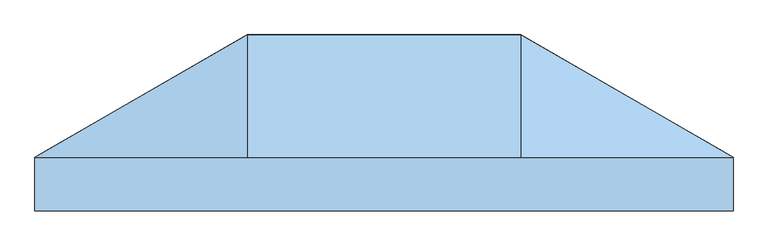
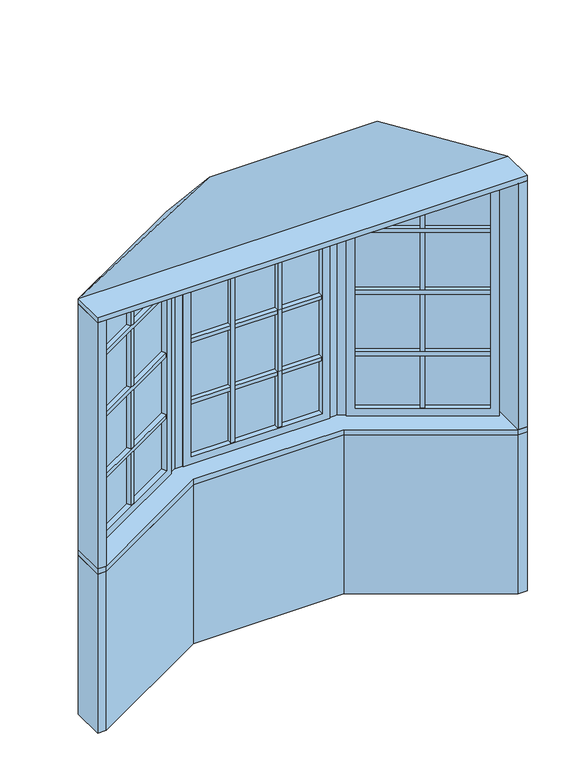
"""IFC4 building model written with IfcOpenShell, lengths in millimetres: window geometry, Pollard_Windows_Tudor Casement Bows and Bays : AML-BAY 30 AFR0512-10-600_GC."""

from ifc_helpers import new_model, si_unit, frame, origin, origin_with_axes, place, context, project, spatial, polyline, outline, extrude, faceted_brep, source, transform, mapped, element, save


def window_44f29f49(model_context):
    return source(origin(), model_context, "Body", "SolidModel", [
        extrude(outline(polyline([(460.381999, 376.6297343), (926.6135794, 107.4508058), (915.6135794, 88.3982469), (449.381999, 357.5771754), (460.381999, 376.6297343)])), frame((0.0, 0.0, 1390.998), z_axis=(0.0, 0.0, 1.0), x_axis=(1.0, 0.0, 0.0)), (0.0, 0.0, 1.0), 18.0),
        extrude(outline(polyline([(446.841999, 353.1777664), (913.0735794, 83.9988379), (902.0735794, 64.946279), (435.841999, 334.1252075), (446.841999, 353.1777664)])), frame((0.0, 0.0, 1390.998), z_axis=(0.0, 0.0, 1.0), x_axis=(1.0, 0.0, 0.0)), (0.0, 0.0, 1.0), 18.0),
        extrude(outline(polyline([(460.381999, 376.6297343), (926.6135794, 107.4508058), (915.6135794, 88.3982469), (449.381999, 357.5771754), (460.381999, 376.6297343)])), frame((0.0, 0.0, 1090.998), z_axis=(0.0, 0.0, 1.0), x_axis=(1.0, 0.0, 0.0)), (0.0, 0.0, 1.0), 18.0),
        extrude(outline(polyline([(446.841999, 353.1777664), (913.0735794, 83.9988379), (902.0735794, 64.946279), (435.841999, 334.1252075), (446.841999, 353.1777664)])), frame((0.0, 0.0, 1090.998), z_axis=(0.0, 0.0, 1.0), x_axis=(1.0, 0.0, 0.0)), (0.0, 0.0, 1.0), 18.0),
        extrude(outline(polyline([(460.381999, 376.6297343), (926.6135794, 107.4508058), (915.6135794, 88.3982469), (449.381999, 357.5771754), (460.381999, 376.6297343)])), frame((0.0, 0.0, 1390.998), z_axis=(0.0, 0.0, 1.0), x_axis=(1.0, 0.0, 0.0)), (0.0, 0.0, 1.0), 18.0),
        extrude(outline(polyline([(446.841999, 353.1777664), (913.0735794, 83.9988379), (902.0735794, 64.946279), (435.841999, 334.1252075), (446.841999, 353.1777664)])), frame((0.0, 0.0, 1390.998), z_axis=(0.0, 0.0, 1.0), x_axis=(1.0, 0.0, 0.0)), (0.0, 0.0, 1.0), 18.0),
        extrude(outline(polyline([(460.381999, 376.6297343), (926.6135794, 107.4508058), (915.6135794, 88.3982469), (449.381999, 357.5771754), (460.381999, 376.6297343)])), frame((0.0, 0.0, 1390.998), z_axis=(0.0, 0.0, 1.0), x_axis=(1.0, 0.0, 0.0)), (0.0, 0.0, 1.0), 18.0),
        extrude(outline(polyline([(446.841999, 353.1777664), (913.0735794, 83.9988379), (902.0735794, 64.946279), (435.841999, 334.1252075), (446.841999, 353.1777664)])), frame((0.0, 0.0, 1390.998), z_axis=(0.0, 0.0, 1.0), x_axis=(1.0, 0.0, 0.0)), (0.0, 0.0, 1.0), 18.0),
        extrude(outline(polyline([(460.381999, 376.6297343), (926.6135794, 107.4508058), (915.6135794, 88.3982469), (449.381999, 357.5771754), (460.381999, 376.6297343)])), frame((0.0, 0.0, 1690.998), z_axis=(0.0, 0.0, 1.0), x_axis=(1.0, 0.0, 0.0)), (0.0, 0.0, 1.0), 18.0),
        extrude(outline(polyline([(446.841999, 353.1777664), (913.0735794, 83.9988379), (902.0735794, 64.946279), (435.841999, 334.1252075), (446.841999, 353.1777664)])), frame((0.0, 0.0, 1690.998), z_axis=(0.0, 0.0, 1.0), x_axis=(1.0, 0.0, 0.0)), (0.0, 0.0, 1.0), 18.0),
        extrude(outline(polyline([(690.2920178, 218.4877112), (674.7035606, 227.4877112), (685.7035606, 246.5402701), (701.2920178, 237.5402701), (690.2920178, 218.4877112)])), frame((0.0, 0.0, 835.8628), z_axis=(0.0, 0.0, 1.0), x_axis=(1.0, 0.0, 0.0)), (0.0, 0.0, 1.0), 1128.2704),
        extrude(outline(polyline([(687.7520178, 214.0883021), (676.7520178, 195.0357432), (661.1635606, 204.0357432), (672.1635606, 223.0883021), (687.7520178, 214.0883021)])), frame((0.0, 0.0, 835.8628), z_axis=(0.0, 0.0, 1.0), x_axis=(1.0, 0.0, 0.0)), (0.0, 0.0, 1.0), 1128.2704),
        extrude(outline(polyline([(926.612102, 82.0482469), (924.072102, 77.6488379), (435.8434764, 359.5277664), (438.3834764, 363.9271754), (926.612102, 82.0482469)])), frame((0.0, 0.0, 823.1628), z_axis=(0.0, 0.0, 1.0), x_axis=(1.0, 0.0, 0.0)), (0.0, 0.0, 1.0), 1153.6704),
        faceted_brep([(915.6135794, 88.3982469, 835.8628), (915.6135794, 88.3982469, 1964.1332), (928.3135794, 110.3952922, 1964.1332), (928.3135794, 110.3952922, 835.8628), (924.072102, 77.6488379, 823.1628), (924.072102, 77.6488379, 1976.8332), (926.612102, 82.0482469, 1976.8332), (926.612102, 82.0482469, 823.1628), (900.3735794, 62.0017926, 835.8628), (900.3735794, 62.0017926, 1964.1332), (913.0735794, 83.9988379, 1964.1332), (913.0735794, 83.9988379, 835.8628), (959.3734073, 92.4628922, 799.998), (959.3734073, 92.4628922, 1999.998), (931.4334073, 44.0693926, 1999.998), (931.4334073, 44.0693926, 799.998), (449.381999, 357.5771754, 1964.1332), (462.081999, 379.5742207, 1964.1332), (435.8434764, 359.5277664, 1976.8332), (438.3834764, 363.9271754, 1976.8332), (434.141999, 331.1807211, 1964.1332), (446.841999, 353.1777664, 1964.1332), (431.0221711, 397.5066207, 1999.998), (403.0821711, 349.1131211, 1999.998), (449.381999, 357.5771754, 835.8628), (462.081999, 379.5742207, 835.8628), (435.8434764, 359.5277664, 823.1628), (438.3834764, 363.9271754, 823.1628), (434.141999, 331.1807211, 835.8628), (446.841999, 353.1777664, 835.8628), (431.0221711, 397.5066207, 799.998), (403.0821711, 349.1131211, 799.998)], [[[0, 1, 2, 3]], [[4, 5, 6, 7]], [[8, 9, 10, 11]], [[12, 13, 14, 15]], [[1, 16, 17, 2]], [[5, 18, 19, 6]], [[9, 20, 21, 10]], [[13, 22, 23, 14]], [[16, 24, 25, 17]], [[18, 26, 27, 19]], [[20, 28, 29, 21]], [[22, 30, 31, 23]], [[24, 0, 3, 25]], [[7, 6, 19, 27], [1, 0, 24, 16]], [[26, 4, 7, 27]], [[5, 4, 26, 18], [11, 10, 21, 29]], [[28, 8, 11, 29]], [[15, 14, 23, 31], [9, 8, 28, 20]], [[30, 12, 15, 31]], [[13, 12, 30, 22], [3, 2, 17, 25]]]),
        extrude(outline(polyline([(116.852167, 397.1066207), (98.852167, 397.1066207), (98.852167, 419.1066207), (116.852167, 419.1066207), (116.852167, 397.1066207)])), frame((0.0, 0.0, 835.8628), z_axis=(0.0, 0.0, 1.0), x_axis=(1.0, 0.0, 0.0)), (0.0, 0.0, 1.0), 1128.2704),
        extrude(outline(polyline([(116.852167, 392.0266207), (116.852167, 370.0266207), (98.852167, 370.0266207), (98.852167, 392.0266207), (116.852167, 392.0266207)])), frame((0.0, 0.0, 835.8628), z_axis=(0.0, 0.0, 1.0), x_axis=(1.0, 0.0, 0.0)), (0.0, 0.0, 1.0), 1128.2704),
        extrude(outline(polyline([(-98.852167, 397.1066207), (-116.852167, 397.1066207), (-116.852167, 419.1066207), (-98.852167, 419.1066207), (-98.852167, 397.1066207)])), frame((0.0, 0.0, 835.8628), z_axis=(0.0, 0.0, 1.0), x_axis=(1.0, 0.0, 0.0)), (0.0, 0.0, 1.0), 1128.2704),
        extrude(outline(polyline([(-98.852167, 392.0266207), (-98.852167, 370.0266207), (-116.852167, 370.0266207), (-116.852167, 392.0266207), (-98.852167, 392.0266207)])), frame((0.0, 0.0, 835.8628), z_axis=(0.0, 0.0, 1.0), x_axis=(1.0, 0.0, 0.0)), (0.0, 0.0, 1.0), 1128.2704),
        extrude(outline(polyline([(-301.8561009, 419.1066207), (301.8561009, 419.1066207), (301.8561009, 397.1066207), (-301.8561009, 397.1066207), (-301.8561009, 419.1066207)])), frame((0.0, 0.0, 1090.998), z_axis=(0.0, 0.0, 1.0), x_axis=(1.0, 0.0, 0.0)), (0.0, 0.0, 1.0), 18.0),
        extrude(outline(polyline([(-301.8561009, 392.0266207), (301.8561009, 392.0266207), (301.8561009, 370.0266207), (-301.8561009, 370.0266207), (-301.8561009, 392.0266207)])), frame((0.0, 0.0, 1090.998), z_axis=(0.0, 0.0, 1.0), x_axis=(1.0, 0.0, 0.0)), (0.0, 0.0, 1.0), 18.0),
        extrude(outline(polyline([(-301.8561009, 419.1066207), (301.8561009, 419.1066207), (301.8561009, 397.1066207), (-301.8561009, 397.1066207), (-301.8561009, 419.1066207)])), frame((0.0, 0.0, 1390.998), z_axis=(0.0, 0.0, 1.0), x_axis=(1.0, 0.0, 0.0)), (0.0, 0.0, 1.0), 18.0),
        extrude(outline(polyline([(-301.8561009, 392.0266207), (301.8561009, 392.0266207), (301.8561009, 370.0266207), (-301.8561009, 370.0266207), (-301.8561009, 392.0266207)])), frame((0.0, 0.0, 1390.998), z_axis=(0.0, 0.0, 1.0), x_axis=(1.0, 0.0, 0.0)), (0.0, 0.0, 1.0), 18.0),
        extrude(outline(polyline([(-301.8561009, 419.1066207), (301.8561009, 419.1066207), (301.8561009, 397.1066207), (-301.8561009, 397.1066207), (-301.8561009, 419.1066207)])), frame((0.0, 0.0, 1390.998), z_axis=(0.0, 0.0, 1.0), x_axis=(1.0, 0.0, 0.0)), (0.0, 0.0, 1.0), 18.0),
        extrude(outline(polyline([(-301.8561009, 392.0266207), (301.8561009, 392.0266207), (301.8561009, 370.0266207), (-301.8561009, 370.0266207), (-301.8561009, 392.0266207)])), frame((0.0, 0.0, 1390.998), z_axis=(0.0, 0.0, 1.0), x_axis=(1.0, 0.0, 0.0)), (0.0, 0.0, 1.0), 18.0),
        extrude(outline(polyline([(-301.8561009, 419.1066207), (301.8561009, 419.1066207), (301.8561009, 397.1066207), (-301.8561009, 397.1066207), (-301.8561009, 419.1066207)])), frame((0.0, 0.0, 1390.998), z_axis=(0.0, 0.0, 1.0), x_axis=(1.0, 0.0, 0.0)), (0.0, 0.0, 1.0), 18.0),
        extrude(outline(polyline([(-301.8561009, 392.0266207), (301.8561009, 392.0266207), (301.8561009, 370.0266207), (-301.8561009, 370.0266207), (-301.8561009, 392.0266207)])), frame((0.0, 0.0, 1390.998), z_axis=(0.0, 0.0, 1.0), x_axis=(1.0, 0.0, 0.0)), (0.0, 0.0, 1.0), 18.0),
        extrude(outline(polyline([(-926.6135794, 107.4508058), (-460.381999, 376.6297343), (-449.381999, 357.5771754), (-915.6135794, 88.3982469), (-926.6135794, 107.4508058)])), frame((0.0, 0.0, 1090.998), z_axis=(0.0, 0.0, 1.0), x_axis=(1.0, 0.0, 0.0)), (0.0, 0.0, 1.0), 18.0),
        extrude(outline(polyline([(-913.0735794, 83.9988379), (-446.841999, 353.1777664), (-435.841999, 334.1252075), (-902.0735794, 64.946279), (-913.0735794, 83.9988379)])), frame((0.0, 0.0, 1090.998), z_axis=(0.0, 0.0, 1.0), x_axis=(1.0, 0.0, 0.0)), (0.0, 0.0, 1.0), 18.0),
        extrude(outline(polyline([(-926.6135794, 107.4508058), (-460.381999, 376.6297343), (-449.381999, 357.5771754), (-915.6135794, 88.3982469), (-926.6135794, 107.4508058)])), frame((0.0, 0.0, 1390.998), z_axis=(0.0, 0.0, 1.0), x_axis=(1.0, 0.0, 0.0)), (0.0, 0.0, 1.0), 18.0),
        extrude(outline(polyline([(-913.0735794, 83.9988379), (-446.841999, 353.1777664), (-435.841999, 334.1252075), (-902.0735794, 64.946279), (-913.0735794, 83.9988379)])), frame((0.0, 0.0, 1390.998), z_axis=(0.0, 0.0, 1.0), x_axis=(1.0, 0.0, 0.0)), (0.0, 0.0, 1.0), 18.0),
        extrude(outline(polyline([(-926.6135794, 107.4508058), (-460.381999, 376.6297343), (-449.381999, 357.5771754), (-915.6135794, 88.3982469), (-926.6135794, 107.4508058)])), frame((0.0, 0.0, 1390.998), z_axis=(0.0, 0.0, 1.0), x_axis=(1.0, 0.0, 0.0)), (0.0, 0.0, 1.0), 18.0),
        extrude(outline(polyline([(-913.0735794, 83.9988379), (-446.841999, 353.1777664), (-435.841999, 334.1252075), (-902.0735794, 64.946279), (-913.0735794, 83.9988379)])), frame((0.0, 0.0, 1390.998), z_axis=(0.0, 0.0, 1.0), x_axis=(1.0, 0.0, 0.0)), (0.0, 0.0, 1.0), 18.0),
        extrude(outline(polyline([(-926.6135794, 107.4508058), (-460.381999, 376.6297343), (-449.381999, 357.5771754), (-915.6135794, 88.3982469), (-926.6135794, 107.4508058)])), frame((0.0, 0.0, 1390.998), z_axis=(0.0, 0.0, 1.0), x_axis=(1.0, 0.0, 0.0)), (0.0, 0.0, 1.0), 18.0),
        extrude(outline(polyline([(-913.0735794, 83.9988379), (-446.841999, 353.1777664), (-435.841999, 334.1252075), (-902.0735794, 64.946279), (-913.0735794, 83.9988379)])), frame((0.0, 0.0, 1390.998), z_axis=(0.0, 0.0, 1.0), x_axis=(1.0, 0.0, 0.0)), (0.0, 0.0, 1.0), 18.0),
        extrude(outline(polyline([(-926.6135794, 107.4508058), (-460.381999, 376.6297343), (-449.381999, 357.5771754), (-915.6135794, 88.3982469), (-926.6135794, 107.4508058)])), frame((0.0, 0.0, 1690.998), z_axis=(0.0, 0.0, 1.0), x_axis=(1.0, 0.0, 0.0)), (0.0, 0.0, 1.0), 18.0),
        extrude(outline(polyline([(-913.0735794, 83.9988379), (-446.841999, 353.1777664), (-435.841999, 334.1252075), (-902.0735794, 64.946279), (-913.0735794, 83.9988379)])), frame((0.0, 0.0, 1690.998), z_axis=(0.0, 0.0, 1.0), x_axis=(1.0, 0.0, 0.0)), (0.0, 0.0, 1.0), 18.0),
        extrude(outline(polyline([(-301.8561009, 419.1066207), (301.8561009, 419.1066207), (301.8561009, 397.1066207), (-301.8561009, 397.1066207), (-301.8561009, 419.1066207)])), frame((0.0, 0.0, 1690.998), z_axis=(0.0, 0.0, 1.0), x_axis=(1.0, 0.0, 0.0)), (0.0, 0.0, 1.0), 18.0),
        extrude(outline(polyline([(-301.8561009, 392.0266207), (301.8561009, 392.0266207), (301.8561009, 370.0266207), (-301.8561009, 370.0266207), (-301.8561009, 392.0266207)])), frame((0.0, 0.0, 1690.998), z_axis=(0.0, 0.0, 1.0), x_axis=(1.0, 0.0, 0.0)), (0.0, 0.0, 1.0), 18.0),
        extrude(outline(polyline([(-674.7035606, 227.4877112), (-690.2920178, 218.4877112), (-701.2920178, 237.5402701), (-685.7035606, 246.5402701), (-674.7035606, 227.4877112)])), frame((0.0, 0.0, 835.8628), z_axis=(0.0, 0.0, 1.0), x_axis=(1.0, 0.0, 0.0)), (0.0, 0.0, 1.0), 1128.2704),
        extrude(outline(polyline([(-672.1635606, 223.0883021), (-661.1635606, 204.0357432), (-676.7520178, 195.0357432), (-687.7520178, 214.0883021), (-672.1635606, 223.0883021)])), frame((0.0, 0.0, 835.8628), z_axis=(0.0, 0.0, 1.0), x_axis=(1.0, 0.0, 0.0)), (0.0, 0.0, 1.0), 1128.2704),
        extrude(outline(polyline([(-438.3834764, 363.9271754), (-435.8434764, 359.5277664), (-924.072102, 77.6488379), (-926.612102, 82.0482469), (-438.3834764, 363.9271754)])), frame((0.0, 0.0, 823.1628), z_axis=(0.0, 0.0, 1.0), x_axis=(1.0, 0.0, 0.0)), (0.0, 0.0, 1.0), 1153.6704),
        faceted_brep([(-446.841999, 353.1777664, 1964.1332), (-446.841999, 353.1777664, 835.8628), (-434.141999, 331.1807211, 835.8628), (-434.141999, 331.1807211, 1964.1332), (-438.3834764, 363.9271754, 1976.8332), (-438.3834764, 363.9271754, 823.1628), (-435.8434764, 359.5277664, 823.1628), (-435.8434764, 359.5277664, 1976.8332), (-462.081999, 379.5742207, 1964.1332), (-462.081999, 379.5742207, 835.8628), (-449.381999, 357.5771754, 835.8628), (-449.381999, 357.5771754, 1964.1332), (-403.0821711, 349.1131211, 1999.998), (-403.0821711, 349.1131211, 799.998), (-431.0221711, 397.5066207, 799.998), (-431.0221711, 397.5066207, 1999.998), (-913.0735794, 83.9988379, 835.8628), (-900.3735794, 62.0017926, 835.8628), (-926.612102, 82.0482469, 823.1628), (-924.072102, 77.6488379, 823.1628), (-928.3135794, 110.3952922, 835.8628), (-915.6135794, 88.3982469, 835.8628), (-931.4334073, 44.0693926, 799.998), (-959.3734073, 92.4628922, 799.998), (-913.0735794, 83.9988379, 1964.1332), (-900.3735794, 62.0017926, 1964.1332), (-926.612102, 82.0482469, 1976.8332), (-924.072102, 77.6488379, 1976.8332), (-928.3135794, 110.3952922, 1964.1332), (-915.6135794, 88.3982469, 1964.1332), (-931.4334073, 44.0693926, 1999.998), (-959.3734073, 92.4628922, 1999.998)], [[[0, 1, 2, 3]], [[4, 5, 6, 7]], [[8, 9, 10, 11]], [[12, 13, 14, 15]], [[1, 16, 17, 2]], [[5, 18, 19, 6]], [[9, 20, 21, 10]], [[13, 22, 23, 14]], [[16, 24, 25, 17]], [[18, 26, 27, 19]], [[20, 28, 29, 21]], [[22, 30, 31, 23]], [[13, 12, 30, 22], [3, 2, 17, 25]], [[24, 0, 3, 25]], [[7, 6, 19, 27], [1, 0, 24, 16]], [[26, 4, 7, 27]], [[5, 4, 26, 18], [11, 10, 21, 29]], [[28, 8, 11, 29]], [[15, 14, 23, 31], [9, 8, 28, 20]], [[30, 12, 15, 31]]]),
        extrude(outline(polyline([(314.5561009, 397.1066207), (314.5561009, 392.0266207), (-314.5561009, 392.0266207), (-314.5561009, 397.1066207), (314.5561009, 397.1066207)])), frame((0.0, 0.0, 823.1628), z_axis=(0.0, 0.0, 1.0), x_axis=(1.0, 0.0, 0.0)), (0.0, 0.0, 1.0), 1153.6704),
        faceted_brep([(301.8561009, 397.1066207, 835.8628), (301.8561009, 397.1066207, 1964.1332), (301.8561009, 422.5066207, 1964.1332), (301.8561009, 422.5066207, 835.8628), (314.5561009, 392.0266207, 823.1628), (314.5561009, 392.0266207, 1976.8332), (314.5561009, 397.1066207, 1976.8332), (314.5561009, 397.1066207, 823.1628), (301.8561009, 366.6266207, 835.8628), (301.8561009, 366.6266207, 1964.1332), (301.8561009, 392.0266207, 1964.1332), (301.8561009, 392.0266207, 835.8628), (337.7209009, 422.5066207, 799.998), (337.7209009, 422.5066207, 1999.998), (337.7209009, 366.6266207, 1999.998), (337.7209009, 366.6266207, 799.998), (-301.8561009, 397.1066207, 1964.1332), (-301.8561009, 422.5066207, 1964.1332), (-314.5561009, 392.0266207, 1976.8332), (-314.5561009, 397.1066207, 1976.8332), (-301.8561009, 366.6266207, 1964.1332), (-301.8561009, 392.0266207, 1964.1332), (-337.7209009, 422.5066207, 1999.998), (-337.7209009, 366.6266207, 1999.998), (-301.8561009, 397.1066207, 835.8628), (-301.8561009, 422.5066207, 835.8628), (-314.5561009, 392.0266207, 823.1628), (-314.5561009, 397.1066207, 823.1628), (-301.8561009, 366.6266207, 835.8628), (-301.8561009, 392.0266207, 835.8628), (-337.7209009, 422.5066207, 799.998), (-337.7209009, 366.6266207, 799.998)], [[[0, 1, 2, 3]], [[4, 5, 6, 7]], [[8, 9, 10, 11]], [[12, 13, 14, 15]], [[1, 16, 17, 2]], [[5, 18, 19, 6]], [[9, 20, 21, 10]], [[13, 22, 23, 14]], [[16, 24, 25, 17]], [[18, 26, 27, 19]], [[20, 28, 29, 21]], [[22, 30, 31, 23]], [[13, 12, 30, 22], [3, 2, 17, 25]], [[24, 0, 3, 25]], [[7, 6, 19, 27], [1, 0, 24, 16]], [[26, 4, 7, 27]], [[5, 4, 26, 18], [11, 10, 21, 29]], [[28, 8, 11, 29]], [[15, 14, 23, 31], [9, 8, 28, 20]], [[30, 12, 15, 31]]]),
        faceted_brep([(990.0, 74.7806207, 2025.398), (-990.0, 74.7806207, 2025.398), (-387.7209009, 422.5066207, 2025.398), (387.7209009, 422.5066207, 2025.398), (-387.7209009, 74.7806207, 2406.398), (387.7209009, 74.7806207, 2406.398)], [[[0, 1, 2, 3]], [[1, 4, 2]], [[2, 4, 5, 3]], [[3, 5, 0]], [[0, 5, 4, 1]]]),
        extrude(outline(polyline([(-990.0, -77.6193793), (-990.0, 74.7806207), (-387.7209009, 422.5066207), (387.7209009, 422.5066207), (990.0, 74.7806207), (990.0, -77.6193793), (-990.0, -77.6193793)])), frame((0.0, 0.0, 1999.998), z_axis=(0.0, 0.0, 1.0), x_axis=(1.0, 0.0, 0.0)), (0.0, 0.0, 1.0), 25.4),
        extrude(outline(polyline([(-990.0, 74.7806207), (-959.3734073, 92.4628922), (-949.1645431, 74.7806207), (-949.1645431, -77.6193793), (-990.0, -77.6193793), (-990.0, 74.7806207)])), frame((0.0, 0.0, 799.998), z_axis=(0.0, 0.0, 1.0), x_axis=(1.0, 0.0, 0.0)), (0.0, 0.0, 1.0), 1200.0),
        extrude(outline(polyline([(990.0, -77.6193793), (949.1645431, -77.6193793), (949.1645431, 74.7806207), (959.3734073, 92.4628922), (990.0, 74.7806207), (990.0, -77.6193793)])), frame((0.0, 0.0, 799.998), z_axis=(0.0, 0.0, 1.0), x_axis=(1.0, 0.0, 0.0)), (0.0, 0.0, 1.0), 1200.0),
        extrude(outline(polyline([(387.7209009, 422.5066207), (431.0221711, 397.5066207), (406.0221711, 354.2053505), (374.3234413, 372.5066207), (337.7209009, 372.5066207), (337.7209009, 422.5066207), (387.7209009, 422.5066207)])), frame((0.0, 0.0, 799.998), z_axis=(0.0, 0.0, 1.0), x_axis=(1.0, 0.0, 0.0)), (0.0, 0.0, 1.0), 1200.0),
        extrude(outline(polyline([(-387.7209009, 422.5066207), (-337.7209009, 422.5066207), (-337.7209009, 372.5066207), (-374.3234413, 372.5066207), (-406.0221711, 354.2053505), (-431.0221711, 397.5066207), (-387.7209009, 422.5066207)])), frame((0.0, 0.0, 799.998), z_axis=(0.0, 0.0, 1.0), x_axis=(1.0, 0.0, 0.0)), (0.0, 0.0, 1.0), 1200.0),
        extrude(outline(polyline([(-387.7209009, 422.5066207), (387.7209009, 422.5066207), (990.0, 74.7806207), (990.0, -77.6193793), (949.1645431, -77.6193793), (346.885444, 270.1066207), (-346.885444, 270.1066207), (-949.1645431, -77.6193793), (-990.0, -77.6193793), (-990.0, 74.7806207), (-387.7209009, 422.5066207)])), frame((0.0, 0.0, 774.598), z_axis=(0.0, 0.0, 1.0), x_axis=(1.0, 0.0, 0.0)), (0.0, 0.0, 1.0), 25.4),
        extrude(outline(polyline([(-990.0, 74.7806207), (-387.7209009, 422.5066207), (387.7209009, 422.5066207), (990.0, 74.7806207), (990.0, -77.6193793), (949.1645431, -77.6193793), (346.885444, 270.1066207), (-346.885444, 270.1066207), (-949.1645431, -77.6193793), (-990.0, -77.6193793), (-990.0, 74.7806207)])), origin_with_axes(), (0.0, 0.0, 1.0), 774.598),
    ])


if __name__ == "__main__":
    model = new_model("IFC4")
    model_context = context("Model", 3, world=origin())
    ifc_project = project(units=[si_unit("LENGTHUNIT", "METRE", prefix="MILLI")], contexts=[model_context])
    site = spatial("IfcSite", under=ifc_project)
    building = spatial("IfcBuilding", under=site)
    placement = place(None, origin())
    window_shape = window_44f29f49(model_context)
    element("IfcWindow", 1, ObjectType="Pollard_Windows_Tudor Casement Bows and Bays : AML-BAY 30 AFR0512-10-600_GC", at=placement, inside=building, context=model_context, shape_type="MappedRepresentation", body=[
        mapped(window_shape, transform((0.0, 0.0, 0.0), x_axis=(1.0, 0.0, 0.0), y_axis=(0.0, 1.0, 0.0), z_axis=(0.0, 0.0, 1.0))),
    ])
    save(model, "model.ifc")
